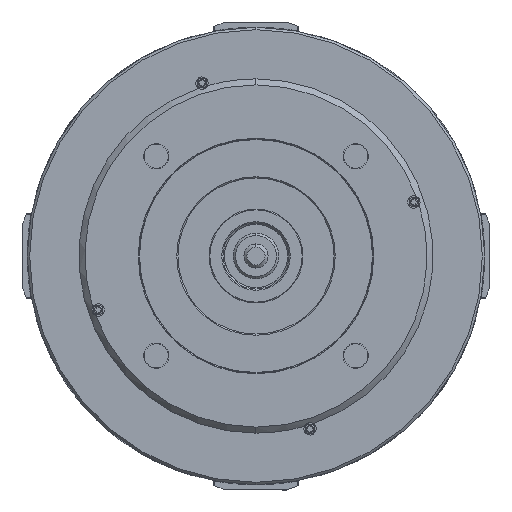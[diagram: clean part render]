
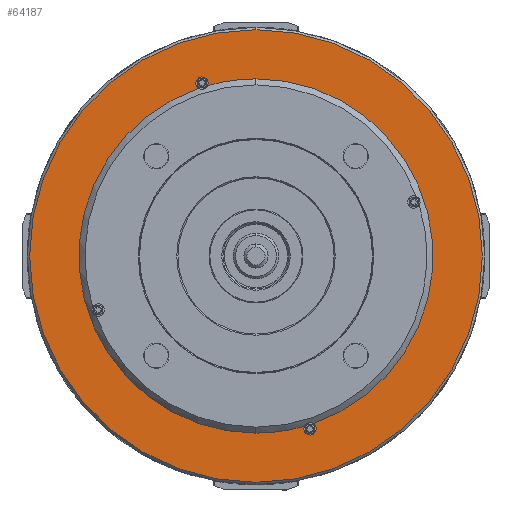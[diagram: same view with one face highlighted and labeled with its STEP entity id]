
A CAD part, left-side view. The second image highlights one B-rep face of the part: STEP entity #64187.
In plain terms, the highlighted planar face has unit normal (-1, 0, 0).
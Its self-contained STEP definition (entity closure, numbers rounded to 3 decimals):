
#28 = ORIENTED_EDGE ( 'NONE', *, *, #61543, .F. ) ;
#2240 = CIRCLE ( 'NONE', #83110, 147.5 ) ;
#2340 = EDGE_CURVE ( 'NONE', #40075, #70975, #43375, .T. ) ;
#2637 = CARTESIAN_POINT ( 'NONE',  ( -130., -45., -149.1 ) ) ;
#3854 = CIRCLE ( 'NONE', #79069, 188.5 ) ;
#4682 = VERTEX_POINT ( 'NONE', #35156 ) ;
#4897 = CARTESIAN_POINT ( 'NONE',  ( -130., 0., 0. ) ) ;
#7265 = CARTESIAN_POINT ( 'NONE',  ( -130., 0., -188.5 ) ) ;
#8762 = AXIS2_PLACEMENT_3D ( 'NONE', #65769, #87547, #13365 ) ;
#9205 = EDGE_CURVE ( 'NONE', #30537, #43067, #68383, .T. ) ;
#10561 = ORIENTED_EDGE ( 'NONE', *, *, #26899, .T. ) ;
#10785 = AXIS2_PLACEMENT_3D ( 'NONE', #36056, #16909, #83538 ) ;
#12096 = EDGE_CURVE ( 'NONE', #70975, #80070, #35112, .T. ) ;
#12548 = ORIENTED_EDGE ( 'NONE', *, *, #40353, .T. ) ;
#13365 = DIRECTION ( 'NONE',  ( 0., 0., 1. ) ) ;
#16073 = CARTESIAN_POINT ( 'NONE',  ( -130., -40.367, -141.869 ) ) ;
#16311 = CARTESIAN_POINT ( 'NONE',  ( -130., 0., 0. ) ) ;
#16466 = CIRCLE ( 'NONE', #77471, 147.5 ) ;
#16909 = DIRECTION ( 'NONE',  ( -1., 0., 0. ) ) ;
#17291 = CARTESIAN_POINT ( 'NONE',  ( -130., 47.596, 139.61 ) ) ;
#17740 = DIRECTION ( 'NONE',  ( 0., 0., -1. ) ) ;
#18204 = DIRECTION ( 'NONE',  ( 0., 0., -1. ) ) ;
#18439 = DIRECTION ( 'NONE',  ( -1., 0., 0. ) ) ;
#19568 = CARTESIAN_POINT ( 'NONE',  ( -130., 0., 188.5 ) ) ;
#19983 = EDGE_CURVE ( 'NONE', #58505, #82013, #3854, .T. ) ;
#21891 = AXIS2_PLACEMENT_3D ( 'NONE', #82383, #81521, #35764 ) ;
#22887 = CIRCLE ( 'NONE', #48404, 5.1 ) ;
#23352 = FACE_OUTER_BOUND ( 'NONE', #59856, .T. ) ;
#24431 = DIRECTION ( 'NONE',  ( 1., 0., 0. ) ) ;
#25300 = CARTESIAN_POINT ( 'NONE',  ( -130., 0., 0. ) ) ;
#25523 = DIRECTION ( 'NONE',  ( 0., 0., -1. ) ) ;
#25632 = DIRECTION ( 'NONE',  ( 0., 0., 1. ) ) ;
#26165 = EDGE_CURVE ( 'NONE', #40075, #64648, #2240, .T. ) ;
#26899 = EDGE_CURVE ( 'NONE', #66340, #80070, #16466, .T. ) ;
#29566 = ORIENTED_EDGE ( 'NONE', *, *, #9205, .F. ) ;
#30537 = VERTEX_POINT ( 'NONE', #16073 ) ;
#30918 = CARTESIAN_POINT ( 'NONE',  ( -130., 133.29, -133.29 ) ) ;
#31761 = CARTESIAN_POINT ( 'NONE',  ( -130., 0., 0. ) ) ;
#31789 = FACE_BOUND ( 'NONE', #49328, .T. ) ;
#32430 = CARTESIAN_POINT ( 'NONE',  ( -130., 0., 0. ) ) ;
#32610 = EDGE_CURVE ( 'NONE', #30537, #66340, #56686, .T. ) ;
#33431 = ORIENTED_EDGE ( 'NONE', *, *, #19983, .F. ) ;
#35112 = CIRCLE ( 'NONE', #47866, 5.1 ) ;
#35156 = CARTESIAN_POINT ( 'NONE',  ( -130., -47.596, -139.61 ) ) ;
#35764 = DIRECTION ( 'NONE',  ( 0., 0., -1. ) ) ;
#35820 = ORIENTED_EDGE ( 'NONE', *, *, #12096, .F. ) ;
#36056 = CARTESIAN_POINT ( 'NONE',  ( -130., 45., 144. ) ) ;
#36434 = CARTESIAN_POINT ( 'NONE',  ( -130., 0., 147.5 ) ) ;
#38183 = DIRECTION ( 'NONE',  ( 1., 0., 0. ) ) ;
#40075 = VERTEX_POINT ( 'NONE', #79820 ) ;
#40353 = EDGE_CURVE ( 'NONE', #64648, #4682, #81506, .T. ) ;
#41468 = DIRECTION ( 'NONE',  ( -1., 0., 0. ) ) ;
#41650 = AXIS2_PLACEMENT_3D ( 'NONE', #30918, #50458, #71764 ) ;
#42221 = EDGE_CURVE ( 'NONE', #82013, #58505, #46323, .T. ) ;
#43067 = VERTEX_POINT ( 'NONE', #2637 ) ;
#43375 = CIRCLE ( 'NONE', #10785, 5.1 ) ;
#44677 = PLANE ( 'NONE',  #41650 ) ;
#45114 = DIRECTION ( 'NONE',  ( 0., 0., 1. ) ) ;
#46323 = CIRCLE ( 'NONE', #51946, 188.5 ) ;
#46491 = ORIENTED_EDGE ( 'NONE', *, *, #26165, .T. ) ;
#46845 = DIRECTION ( 'NONE',  ( 1., 0., 0. ) ) ;
#47866 = AXIS2_PLACEMENT_3D ( 'NONE', #71765, #18439, #45114 ) ;
#48404 = AXIS2_PLACEMENT_3D ( 'NONE', #86465, #41468, #25632 ) ;
#49328 = EDGE_LOOP ( 'NONE', ( #29566, #84963, #10561, #35820, #85506, #46491, #12548, #28 ) ) ;
#50458 = DIRECTION ( 'NONE',  ( -1., 0., 0. ) ) ;
#51946 = AXIS2_PLACEMENT_3D ( 'NONE', #25300, #38183, #17740 ) ;
#52021 = DIRECTION ( 'NONE',  ( 0., 0., -1. ) ) ;
#56686 = CIRCLE ( 'NONE', #68062, 147.5 ) ;
#58505 = VERTEX_POINT ( 'NONE', #19568 ) ;
#59053 = ORIENTED_EDGE ( 'NONE', *, *, #42221, .F. ) ;
#59856 = EDGE_LOOP ( 'NONE', ( #59053, #33431 ) ) ;
#61543 = EDGE_CURVE ( 'NONE', #43067, #4682, #22887, .T. ) ;
#61637 = DIRECTION ( 'NONE',  ( 0., 0., -1. ) ) ;
#62500 = CARTESIAN_POINT ( 'NONE',  ( -130., 45., 149.1 ) ) ;
#64187 = ADVANCED_FACE ( 'NONE', ( #31789, #23352 ), #44677, .T. ) ;
#64648 = VERTEX_POINT ( 'NONE', #36434 ) ;
#65769 = CARTESIAN_POINT ( 'NONE',  ( -130., -45., -144. ) ) ;
#66340 = VERTEX_POINT ( 'NONE', #74102 ) ;
#68062 = AXIS2_PLACEMENT_3D ( 'NONE', #16311, #70510, #61637 ) ;
#68383 = CIRCLE ( 'NONE', #8762, 5.1 ) ;
#70510 = DIRECTION ( 'NONE',  ( 1., 0., 0. ) ) ;
#70975 = VERTEX_POINT ( 'NONE', #62500 ) ;
#71567 = DIRECTION ( 'NONE',  ( 1., 0., 0. ) ) ;
#71764 = DIRECTION ( 'NONE',  ( 0., 0., 1. ) ) ;
#71765 = CARTESIAN_POINT ( 'NONE',  ( -130., 45., 144. ) ) ;
#74102 = CARTESIAN_POINT ( 'NONE',  ( -130., 0., -147.5 ) ) ;
#77471 = AXIS2_PLACEMENT_3D ( 'NONE', #32430, #24431, #18204 ) ;
#79069 = AXIS2_PLACEMENT_3D ( 'NONE', #4897, #71567, #52021 ) ;
#79820 = CARTESIAN_POINT ( 'NONE',  ( -130., 40.367, 141.869 ) ) ;
#80070 = VERTEX_POINT ( 'NONE', #17291 ) ;
#81506 = CIRCLE ( 'NONE', #21891, 147.5 ) ;
#81521 = DIRECTION ( 'NONE',  ( 1., 0., 0. ) ) ;
#82013 = VERTEX_POINT ( 'NONE', #7265 ) ;
#82383 = CARTESIAN_POINT ( 'NONE',  ( -130., 0., 0. ) ) ;
#83110 = AXIS2_PLACEMENT_3D ( 'NONE', #31761, #46845, #25523 ) ;
#83538 = DIRECTION ( 'NONE',  ( 0., 0., 1. ) ) ;
#84963 = ORIENTED_EDGE ( 'NONE', *, *, #32610, .T. ) ;
#85506 = ORIENTED_EDGE ( 'NONE', *, *, #2340, .F. ) ;
#86465 = CARTESIAN_POINT ( 'NONE',  ( -130., -45., -144. ) ) ;
#87547 = DIRECTION ( 'NONE',  ( -1., 0., 0. ) ) ;
